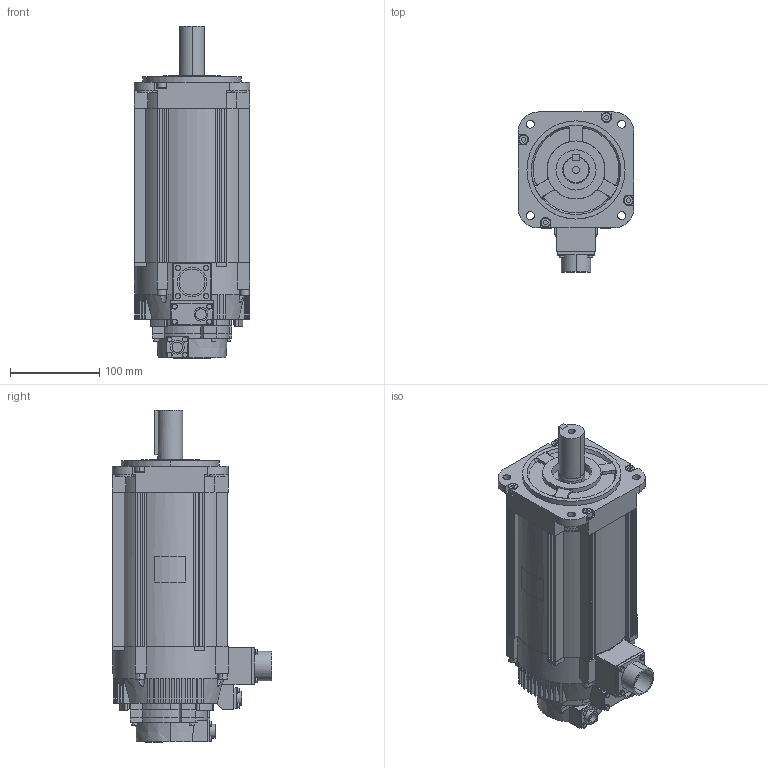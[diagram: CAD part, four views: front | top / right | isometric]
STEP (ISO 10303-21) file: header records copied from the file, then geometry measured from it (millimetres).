
FILE_DESCRIPTION (( 'STEP AP203' ), '1' );
FILE_NAME ('sgm7a_50a_a6c.STEP', '2016-02-18T23:41:11', ( '匠エンジニアリング山之内' ), ( 'TAKUMI-Engniaring' ), 'SwSTEP 2.0', 'SolidWorks 2006303', '' );
FILE_SCHEMA (( 'CONFIG_CONTROL_DESIGN' ));
Length unit declared in the file: millimetre
Products named in the file (3): sgm7a_50a_a6c; sgm7a_50a_a6c_base; sgm7a_50a_a6c_key
Assembly tree (2 placements, depth 2):
  sgm7a_50a_a6c
    sgm7a_50a_a6c_key
    sgm7a_50a_a6c_base
Bounding box: 130 x 179 x 372.1 mm (x, y, z)
Volume: 4004989.3 mm3; surface area: 249113.1 mm2
Topology: 2 solids, 2 shells, 832 faces, 2164 edges, 1426 vertices
Faces by surface type: plane 535, cylinder 245, cone 46, bspline 6
Entity records: 26430 total; most frequent: CARTESIAN_POINT 5266, DIRECTION 4386, ORIENTED_EDGE 4328, EDGE_CURVE 2164, AXIS2_PLACEMENT_3D 1505, VERTEX_POINT 1426, LINE 1376, VECTOR 1376
